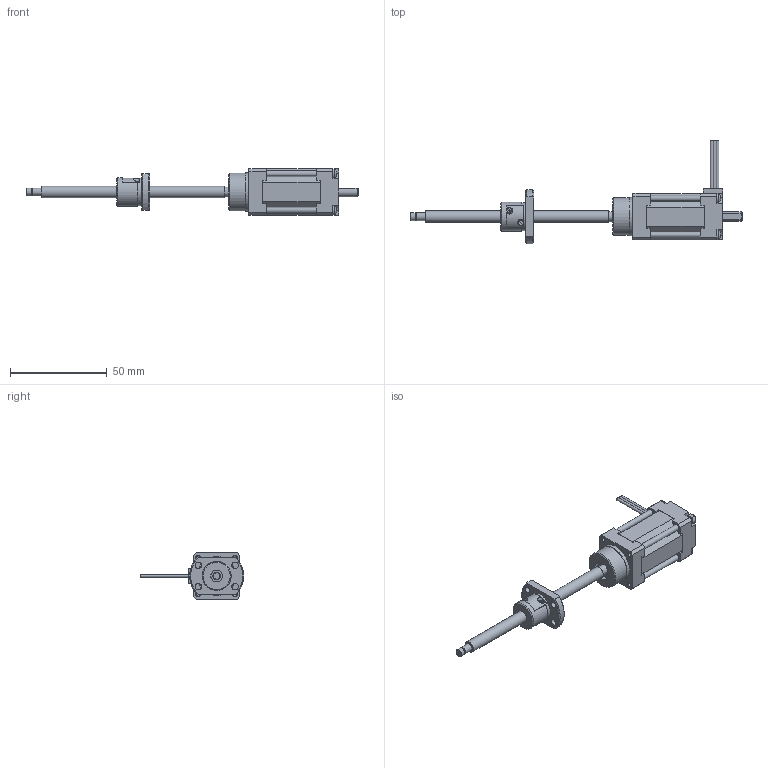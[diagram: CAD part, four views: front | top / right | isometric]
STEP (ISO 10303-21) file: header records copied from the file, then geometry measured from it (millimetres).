
FILE_DESCRIPTION( ( 'STEP AP214' ), ' ' );
FILE_NAME( 'p:/temp/worker_4/3012_2236/app_90_12017090514291012704261260eae72_000000_00_00_000000/format_0/TMB0602(39).stp', '2017-09-05T12:29:10', ( '' ), ( '' ), ' ', 'PARTsolutions', ' ' );
FILE_SCHEMA( ( 'AUTOMOTIVE_DESIGN { 1 0 10303 214 1 1 1 1 }' ) );
Length unit declared in the file: millimetre
Products named in the file (3): TMB0602(39); _TMB0602 (0)motor; _TMB0602 (39)nut
Assembly tree (2 placements, depth 2):
  TMB0602(39)
    _TMB0602 (0)motor
    _TMB0602 (39)nut
Bounding box: 172 x 53.45 x 24 mm (x, y, z)
Volume: 34415.2 mm3; surface area: 11968.6 mm2
Topology: 2 solids, 2 shells, 243 faces, 663 edges, 435 vertices
Faces by surface type: plane 165, cylinder 56, cone 18, bspline 4
Full cylindrical faces by diameter (mm): 1.5 x3, 2 x2, 2.113 x4, 3.4 x4, 3.7 x1, 4 x2, 5 x4, 5.1 x1, 6 x2, 10 x1, 14.5 x1, 15 x1, 19.5 x1, 20 x1
Entity records: 9567 total; most frequent: CARTESIAN_POINT 1767, ORIENTED_EDGE 1182, DIRECTION 1141, EDGE_CURVE 591, VERTEX_POINT 414, LINE 385, VECTOR 385, AXIS2_PLACEMENT_3D 378
